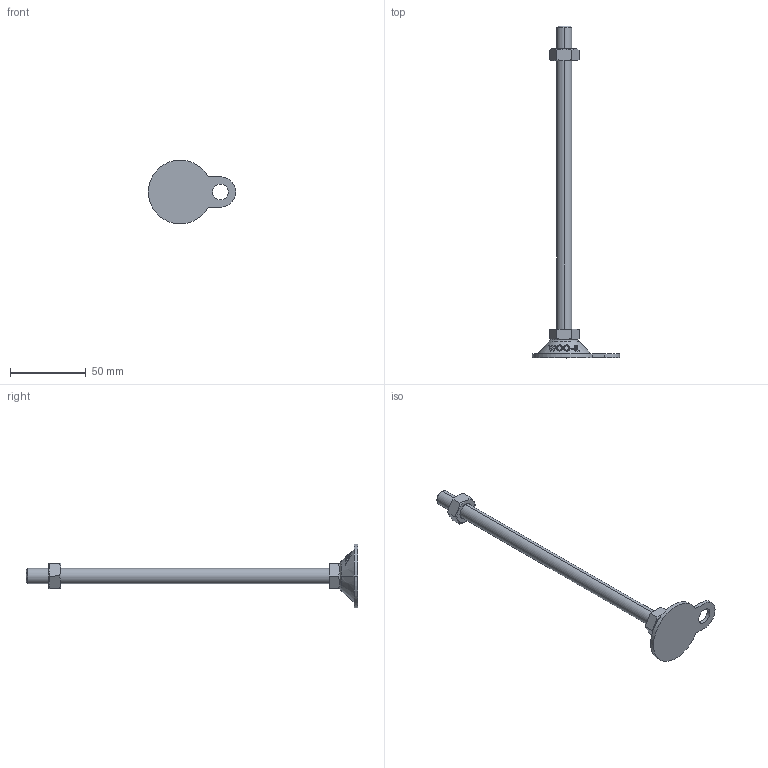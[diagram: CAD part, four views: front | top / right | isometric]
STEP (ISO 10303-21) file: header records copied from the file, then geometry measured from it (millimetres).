
FILE_DESCRIPTION (( 'STEP AP214' ), '1' );
FILE_NAME ('ABL42-M10-200.step', '2021-02-05T04:18:01', ( '' ), ( '' ), 'SwSTEP 2.0', 'SolidWorks 2019', '' );
FILE_SCHEMA (( 'AUTOMOTIVE_DESIGN' ));
Length unit declared in the file: millimetre
Products named in the file (2): ABL42-M10-200
Bounding box: 57.5 x 219 x 41.86 mm (x, y, z)
Volume: 28226 mm3; surface area: 11898.5 mm2
Topology: 2 solids, 2 shells, 128 faces, 325 edges, 212 vertices
Faces by surface type: plane 48, cylinder 38, cone 22, bspline 18, torus 2
Entity records: 5503 total; most frequent: CARTESIAN_POINT 2617, ORIENTED_EDGE 650, DIRECTION 473, EDGE_CURVE 325, VERTEX_POINT 212, AXIS2_PLACEMENT_3D 176, EDGE_LOOP 143, B_SPLINE_CURVE_WITH_KNOTS 140
